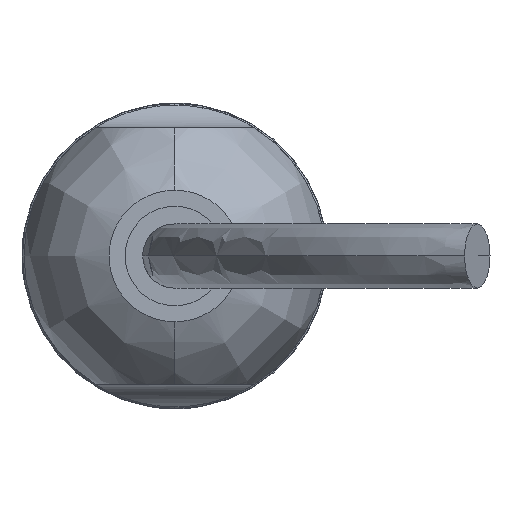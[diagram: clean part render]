
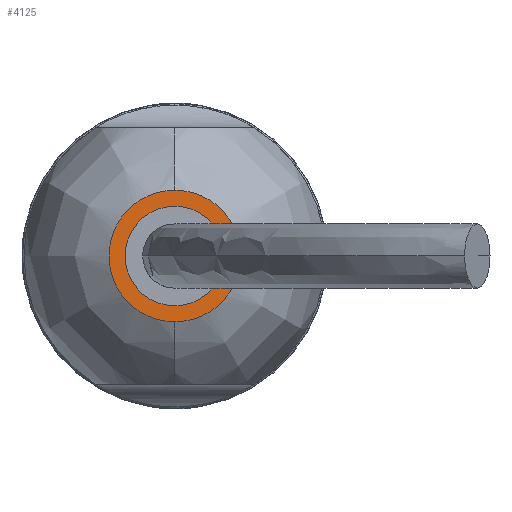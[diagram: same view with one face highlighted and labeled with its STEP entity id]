
A CAD part, left-side view. The second image highlights one B-rep face of the part: STEP entity #4125.
In plain terms, the highlighted planar face has unit normal (-1, 0, 0).
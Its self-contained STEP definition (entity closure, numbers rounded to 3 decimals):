
#160 = VERTEX_POINT ( 'NONE', #3469 ) ;
#191 = EDGE_LOOP ( 'NONE', ( #2666, #4751 ) ) ;
#356 = EDGE_CURVE ( 'NONE', #611, #4107, #4280, .T. ) ;
#582 = CIRCLE ( 'NONE', #1737, 3.1 ) ;
#611 = VERTEX_POINT ( 'NONE', #3212 ) ;
#954 = FACE_OUTER_BOUND ( 'NONE', #191, .T. ) ;
#1020 = DIRECTION ( 'NONE',  ( -1., 0., 0. ) ) ;
#1024 = DIRECTION ( 'NONE',  ( -1., 0., 0. ) ) ;
#1101 = B_SPLINE_CURVE_WITH_KNOTS ( 'NONE', 3,
 ( #1654, #4764, #3934, #3610, #1287, #1980 ),
 .UNSPECIFIED., .F., .F.,
 ( 4, 2, 4 ),
 ( 0., 0.5, 1. ),
 .UNSPECIFIED. ) ;
#1287 = CARTESIAN_POINT ( 'NONE',  ( -99.65, -2.264, 4.099 ) ) ;
#1415 = PLANE ( 'NONE',  #1847 ) ;
#1594 = CIRCLE ( 'NONE', #3949, 3.1 ) ;
#1630 = CARTESIAN_POINT ( 'NONE',  ( -99.65, 0., 0. ) ) ;
#1654 = CARTESIAN_POINT ( 'NONE',  ( -99.65, 0., -4.099 ) ) ;
#1737 = AXIS2_PLACEMENT_3D ( 'NONE', #3367, #1020, #1744 ) ;
#1744 = DIRECTION ( 'NONE',  ( 0., 0., 1. ) ) ;
#1756 = DIRECTION ( 'NONE',  ( -1., 0., 0. ) ) ;
#1826 = EDGE_CURVE ( 'NONE', #4107, #611, #1101, .T. ) ;
#1847 = AXIS2_PLACEMENT_3D ( 'NONE', #2967, #1024, #2580 ) ;
#1980 = CARTESIAN_POINT ( 'NONE',  ( -99.65, 0., 4.099 ) ) ;
#2098 = EDGE_LOOP ( 'NONE', ( #2262, #4491 ) ) ;
#2212 = DIRECTION ( 'NONE',  ( 0., 0., 1. ) ) ;
#2262 = ORIENTED_EDGE ( 'NONE', *, *, #3624, .F. ) ;
#2580 = DIRECTION ( 'NONE',  ( 0., 1., 0. ) ) ;
#2666 = ORIENTED_EDGE ( 'NONE', *, *, #1826, .T. ) ;
#2833 = VERTEX_POINT ( 'NONE', #3147 ) ;
#2914 = CARTESIAN_POINT ( 'NONE',  ( -99.65, 4.099, -2.264 ) ) ;
#2967 = CARTESIAN_POINT ( 'NONE',  ( -99.65, -4.099, 4.099 ) ) ;
#3147 = CARTESIAN_POINT ( 'NONE',  ( -99.65, 0., -3.1 ) ) ;
#3212 = CARTESIAN_POINT ( 'NONE',  ( -99.65, 0., 4.099 ) ) ;
#3293 = CARTESIAN_POINT ( 'NONE',  ( -99.65, 0., 4.099 ) ) ;
#3321 = CARTESIAN_POINT ( 'NONE',  ( -99.65, 2.264, 4.099 ) ) ;
#3354 = FACE_BOUND ( 'NONE', #2098, .T. ) ;
#3367 = CARTESIAN_POINT ( 'NONE',  ( -99.65, 0., 0. ) ) ;
#3469 = CARTESIAN_POINT ( 'NONE',  ( -99.65, 0., 3.1 ) ) ;
#3610 = CARTESIAN_POINT ( 'NONE',  ( -99.65, -4.099, 2.264 ) ) ;
#3624 = EDGE_CURVE ( 'NONE', #160, #2833, #1594, .T. ) ;
#3934 = CARTESIAN_POINT ( 'NONE',  ( -99.65, -4.099, -2.264 ) ) ;
#3949 = AXIS2_PLACEMENT_3D ( 'NONE', #1630, #1756, #2212 ) ;
#4107 = VERTEX_POINT ( 'NONE', #4862 ) ;
#4125 = ADVANCED_FACE ( 'NONE', ( #954, #3354 ), #1415, .T. ) ;
#4280 = B_SPLINE_CURVE_WITH_KNOTS ( 'NONE', 3,
 ( #3293, #3321, #4492, #2914, #4391, #4803 ),
 .UNSPECIFIED., .F., .F.,
 ( 4, 2, 4 ),
 ( 0., 0.5, 1. ),
 .UNSPECIFIED. ) ;
#4391 = CARTESIAN_POINT ( 'NONE',  ( -99.65, 2.264, -4.099 ) ) ;
#4491 = ORIENTED_EDGE ( 'NONE', *, *, #4913, .F. ) ;
#4492 = CARTESIAN_POINT ( 'NONE',  ( -99.65, 4.099, 2.264 ) ) ;
#4751 = ORIENTED_EDGE ( 'NONE', *, *, #356, .T. ) ;
#4764 = CARTESIAN_POINT ( 'NONE',  ( -99.65, -2.264, -4.099 ) ) ;
#4803 = CARTESIAN_POINT ( 'NONE',  ( -99.65, 0., -4.099 ) ) ;
#4862 = CARTESIAN_POINT ( 'NONE',  ( -99.65, 0., -4.099 ) ) ;
#4913 = EDGE_CURVE ( 'NONE', #2833, #160, #582, .T. ) ;
